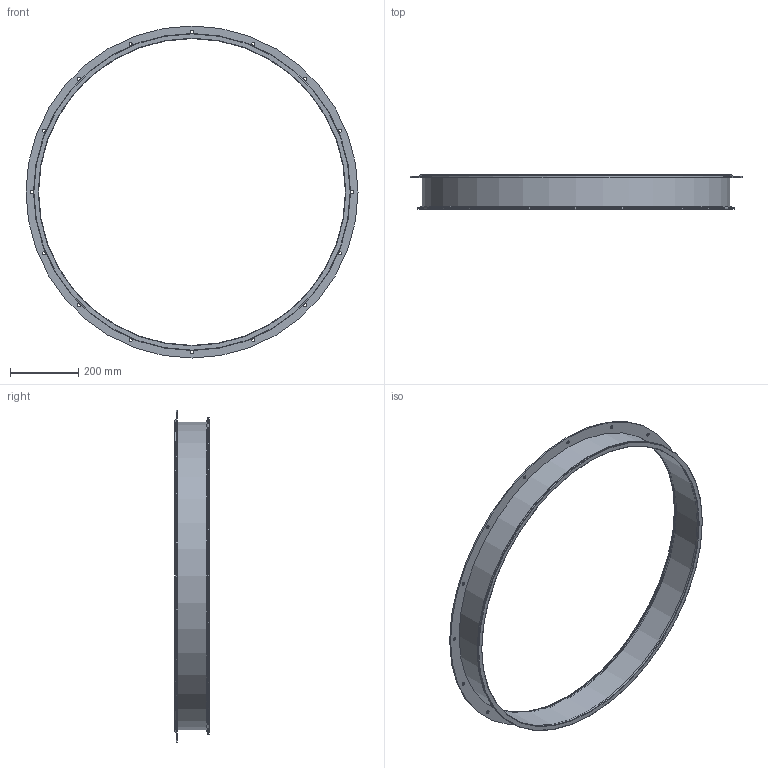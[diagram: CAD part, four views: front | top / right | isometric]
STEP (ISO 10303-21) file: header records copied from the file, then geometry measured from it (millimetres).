
FILE_DESCRIPTION(/* description */ (''),/* implementation_level */ '2;1');
FILE_NAME(/* name */ 'METU_EA116-41B_900_L100.stp',/* time_stamp */ '2018-10-10T16:33:45+02:00',/* author */ (''),/* organization */ (''),/* preprocessor_version */ 'ST-DEVELOPER v11',/* originating_system */ 'SIEMENS UGS NX 6.0',/* authorisation */ '');
FILE_SCHEMA (('CONFIG_CONTROL_DESIGN'));
Length unit declared in the file: millimetre
Products named in the file (1): garsCF17deaq
Bounding box: 974 x 101.5 x 974 mm (x, y, z)
Volume: 1097189.1 mm3; surface area: 992147.3 mm2
Topology: 3 solids, 3 shells, 40 faces, 109 edges, 78 vertices
Faces by surface type: cylinder 25, plane 9, torus 5, cone 1
Full cylindrical faces by diameter (mm): 9.5 x16, 900 x2, 902.4 x2, 904 x1, 912.4 x2, 930 x1, 974 x1
Entity records: 1122 total; most frequent: DIRECTION 194, CARTESIAN_POINT 153, FACE_BOUND 112, EDGE_LOOP 112, ORIENTED_EDGE 112, AXIS2_PLACEMENT_3D 97, VERTEX_POINT 56, EDGE_CURVE 56
